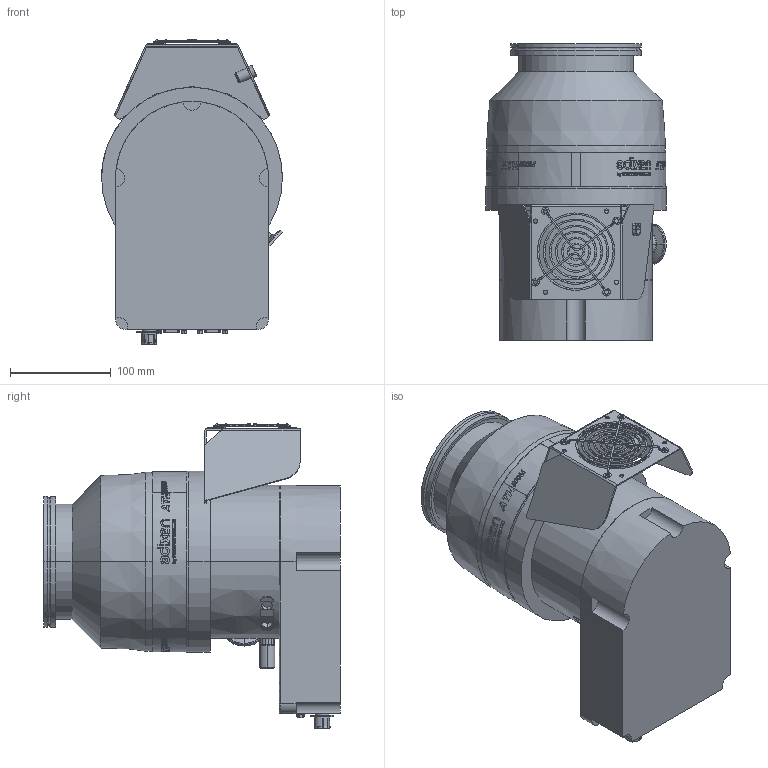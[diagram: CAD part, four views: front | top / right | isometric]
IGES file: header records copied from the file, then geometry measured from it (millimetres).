
Start section:  PTC IGES file: env-ath500m-v2311100.igs
Global section: file name: env-ath500m-v2311100.igs; native system: Creo Parametric by Parametric Technology Corporation; preprocessor: 2015280; author: RCRIADO; organization: Unknown; date: 20190514.120110; units: millimetre
Bounding box: 180 x 295.09 x 303.25 mm (x, y, z)
Volume: 6569482.1 mm3; surface area: 371553.3 mm2
Topology: 9 solids, 13 shells, 2470 faces, 6688 edges, 4405 vertices
Faces by surface type: bspline 1997, revolution 473
